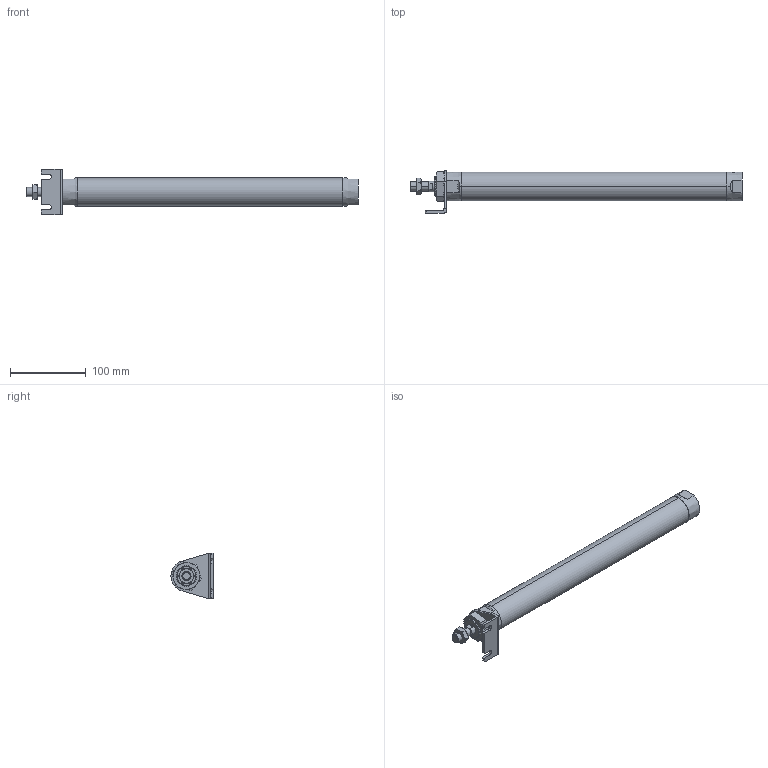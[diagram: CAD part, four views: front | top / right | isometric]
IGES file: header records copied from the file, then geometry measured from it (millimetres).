
Start section: SolidWorks IGES file using analytic representation for surfaces
Global section: file name: C:\Users\Toshiba\Desktop\JGND2-32-300-L.IGS; native system: SolidWorks 2014; preprocessor: SolidWorks 2014; author: Toshiba; date: 160804.110322; units: millimetre
Bounding box: 437 x 55.5 x 60 mm (x, y, z)
Surface area: 63747.2 mm2 (no closed solid volume)
Topology: 0 solids, 0 shells, 116 faces, 1918 edges, 1914 vertices
Faces by surface type: bspline 71, revolution 45
